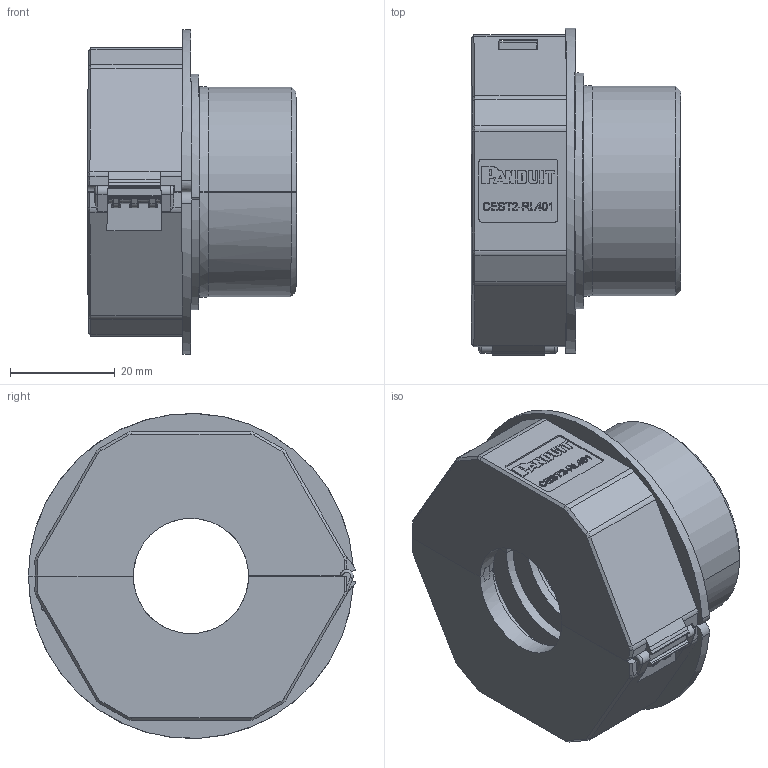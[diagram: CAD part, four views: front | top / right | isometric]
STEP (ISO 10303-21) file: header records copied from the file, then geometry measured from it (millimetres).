
FILE_DESCRIPTION(/* description */ (''),/* implementation_level */ '2;1');
FILE_NAME(/* name */ 'C:\SapWorkDir\Inventor\MP1\ConvertTempPath\87_11_121438_00_A_220615_KDL-D mono M40x1,5.stp',/* time_stamp */ '2022-06-17T11:33:11+02:00',/* author */ ('BAUER'),/* organization */ (''),/* preprocessor_version */ 'ST-DEVELOPER v16.13',/* originating_system */ 'Autodesk Inventor 2018',/* authorisation */ '');
FILE_SCHEMA (('AUTOMOTIVE_DESIGN { 1 0 10303 214 3 1 1 }'));
Length unit declared in the file: millimetre
Products named in the file (4): 121438; 121444; 121439; DHS-2_M50
Assembly tree (4 placements, depth 2):
  121438
    121444
    121439
    DHS-2_M50  x2
Bounding box: 40.01 x 62.41 x 61.96 mm (x, y, z)
Volume: 38406.9 mm3; surface area: 26178.7 mm2
Topology: 4 solids, 4 shells, 1107 faces, 2929 edges, 1858 vertices
Faces by surface type: plane 611, cylinder 284, bspline 153, sphere 36, torus 14, cone 9
Entity records: 35608 total; most frequent: CARTESIAN_POINT 10037, ORIENTED_EDGE 5522, DIRECTION 4923, EDGE_CURVE 2761, LINE 1847, VECTOR 1847, VERTEX_POINT 1774, AXIS2_PLACEMENT_3D 1538
